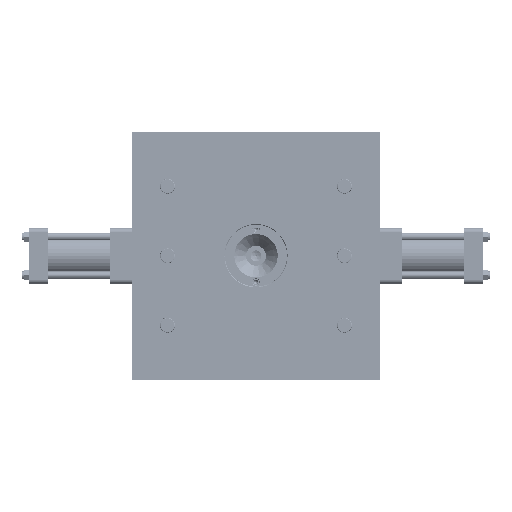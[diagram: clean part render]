
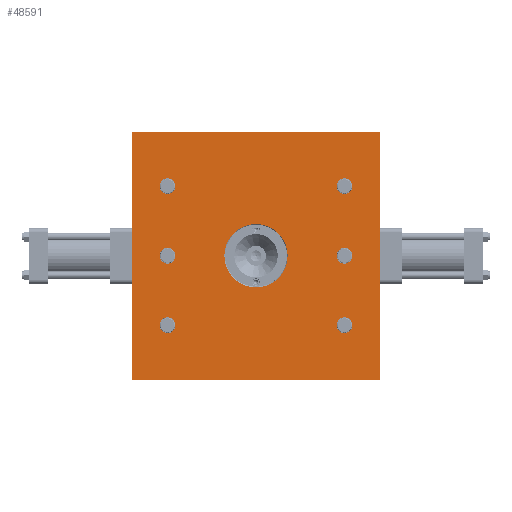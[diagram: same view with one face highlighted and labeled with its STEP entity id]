
A CAD part, top view. The second image highlights one B-rep face of the part: STEP entity #48591.
In plain terms, the highlighted planar face has unit normal (0, 0, 1).
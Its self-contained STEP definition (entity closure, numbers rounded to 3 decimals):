
#4919=LINE('',#129718,#9237);
#4920=LINE('',#129721,#9238);
#4921=LINE('',#129723,#9239);
#4922=LINE('',#129725,#9240);
#9237=VECTOR('',#111282,1.);
#9238=VECTOR('',#111283,1.);
#9239=VECTOR('',#111284,1.);
#9240=VECTOR('',#111285,1.);
#42698=PLANE('',#104490);
#44596=FACE_OUTER_BOUND('',#56437,.T.);
#48591=ADVANCED_FACE('',(#54384,#44596,#54385,#54386,#54387,#54388,#54389,
#54390),#42698,.T.);
#54384=FACE_BOUND('',#56436,.T.);
#54385=FACE_BOUND('',#56438,.T.);
#54386=FACE_BOUND('',#56439,.T.);
#54387=FACE_BOUND('',#56440,.T.);
#54388=FACE_BOUND('',#56441,.T.);
#54389=FACE_BOUND('',#56442,.T.);
#54390=FACE_BOUND('',#56443,.T.);
#56436=EDGE_LOOP('',(#62411));
#56437=EDGE_LOOP('',(#62412,#62413,#62414,#62415));
#56438=EDGE_LOOP('',(#62416));
#56439=EDGE_LOOP('',(#62417));
#56440=EDGE_LOOP('',(#62418));
#56441=EDGE_LOOP('',(#62419));
#56442=EDGE_LOOP('',(#62420));
#56443=EDGE_LOOP('',(#62421));
#62411=ORIENTED_EDGE('',*,*,#90962,.T.);
#62412=ORIENTED_EDGE('',*,*,#90963,.F.);
#62413=ORIENTED_EDGE('',*,*,#90964,.F.);
#62414=ORIENTED_EDGE('',*,*,#90965,.F.);
#62415=ORIENTED_EDGE('',*,*,#90966,.F.);
#62416=ORIENTED_EDGE('',*,*,#90967,.F.);
#62417=ORIENTED_EDGE('',*,*,#90968,.F.);
#62418=ORIENTED_EDGE('',*,*,#90969,.F.);
#62419=ORIENTED_EDGE('',*,*,#90970,.F.);
#62420=ORIENTED_EDGE('',*,*,#90971,.F.);
#62421=ORIENTED_EDGE('',*,*,#90972,.F.);
#83542=VERTEX_POINT('',#129717);
#83543=VERTEX_POINT('',#129719);
#83544=VERTEX_POINT('',#129720);
#83545=VERTEX_POINT('',#129722);
#83546=VERTEX_POINT('',#129724);
#83547=VERTEX_POINT('',#129727);
#83548=VERTEX_POINT('',#129729);
#83549=VERTEX_POINT('',#129731);
#83550=VERTEX_POINT('',#129733);
#83551=VERTEX_POINT('',#129735);
#83552=VERTEX_POINT('',#129737);
#90962=EDGE_CURVE('',#83542,#83542,#101530,.T.);
#90963=EDGE_CURVE('',#83543,#83544,#4919,.T.);
#90964=EDGE_CURVE('',#83545,#83543,#4920,.T.);
#90965=EDGE_CURVE('',#83546,#83545,#4921,.T.);
#90966=EDGE_CURVE('',#83544,#83546,#4922,.T.);
#90967=EDGE_CURVE('',#83547,#83547,#101531,.T.);
#90968=EDGE_CURVE('',#83548,#83548,#101532,.T.);
#90969=EDGE_CURVE('',#83549,#83549,#101533,.T.);
#90970=EDGE_CURVE('',#83550,#83550,#101534,.T.);
#90971=EDGE_CURVE('',#83551,#83551,#101535,.T.);
#90972=EDGE_CURVE('',#83552,#83552,#101536,.T.);
#101530=CIRCLE('',#104483,51.);
#101531=CIRCLE('',#104484,12.7);
#101532=CIRCLE('',#104485,12.7);
#101533=CIRCLE('',#104486,12.7);
#101534=CIRCLE('',#104487,12.7);
#101535=CIRCLE('',#104488,12.7);
#101536=CIRCLE('',#104489,12.7);
#104483=AXIS2_PLACEMENT_3D('',#129716,#111280,#111281);
#104484=AXIS2_PLACEMENT_3D('',#129726,#111286,#111287);
#104485=AXIS2_PLACEMENT_3D('',#129728,#111288,#111289);
#104486=AXIS2_PLACEMENT_3D('',#129730,#111290,#111291);
#104487=AXIS2_PLACEMENT_3D('',#129732,#111292,#111293);
#104488=AXIS2_PLACEMENT_3D('',#129734,#111294,#111295);
#104489=AXIS2_PLACEMENT_3D('',#129736,#111296,#111297);
#104490=AXIS2_PLACEMENT_3D('',#129738,#111298,#111299);
#111280=DIRECTION('',(0.,0.,-1.));
#111281=DIRECTION('',(1.,0.,0.));
#111282=DIRECTION('',(-1.,0.,0.));
#111283=DIRECTION('',(0.,-1.,0.));
#111284=DIRECTION('',(1.,0.,0.));
#111285=DIRECTION('',(0.,1.,0.));
#111286=DIRECTION('',(0.,0.,1.));
#111287=DIRECTION('',(1.,0.,0.));
#111288=DIRECTION('',(0.,0.,1.));
#111289=DIRECTION('',(1.,0.,0.));
#111290=DIRECTION('',(0.,0.,1.));
#111291=DIRECTION('',(1.,0.,0.));
#111292=DIRECTION('',(0.,0.,1.));
#111293=DIRECTION('',(1.,0.,0.));
#111294=DIRECTION('',(0.,0.,1.));
#111295=DIRECTION('',(1.,0.,0.));
#111296=DIRECTION('',(0.,0.,1.));
#111297=DIRECTION('',(1.,0.,0.));
#111298=DIRECTION('',(0.,0.,1.));
#111299=DIRECTION('',(1.,0.,0.));
#129716=CARTESIAN_POINT('',(0.,0.,220.));
#129717=CARTESIAN_POINT('',(51.,0.,220.));
#129718=CARTESIAN_POINT('',(200.,-200.,220.));
#129719=CARTESIAN_POINT('',(200.,-200.,220.));
#129720=CARTESIAN_POINT('',(-200.,-200.,220.));
#129721=CARTESIAN_POINT('',(200.,200.,220.));
#129722=CARTESIAN_POINT('',(200.,200.,220.));
#129723=CARTESIAN_POINT('',(-200.,200.,220.));
#129724=CARTESIAN_POINT('',(-200.,200.,220.));
#129725=CARTESIAN_POINT('',(-200.,-200.,220.));
#129726=CARTESIAN_POINT('',(-142.5,112.,220.));
#129727=CARTESIAN_POINT('',(-129.8,112.,220.));
#129728=CARTESIAN_POINT('',(-142.5,-112.,220.));
#129729=CARTESIAN_POINT('',(-129.8,-112.,220.));
#129730=CARTESIAN_POINT('',(142.5,-112.,220.));
#129731=CARTESIAN_POINT('',(155.2,-112.,220.));
#129732=CARTESIAN_POINT('',(142.5,112.,220.));
#129733=CARTESIAN_POINT('',(155.2,112.,220.));
#129734=CARTESIAN_POINT('',(-142.5,0.,220.));
#129735=CARTESIAN_POINT('',(-129.8,0.,220.));
#129736=CARTESIAN_POINT('',(142.5,0.,220.));
#129737=CARTESIAN_POINT('',(155.2,0.,220.));
#129738=CARTESIAN_POINT('',(200.,-200.,220.));
